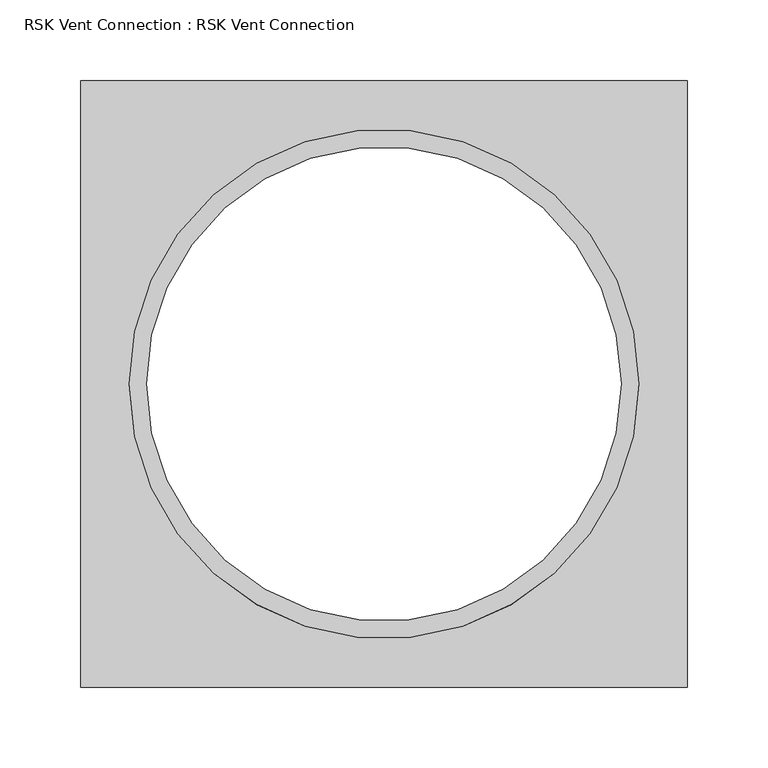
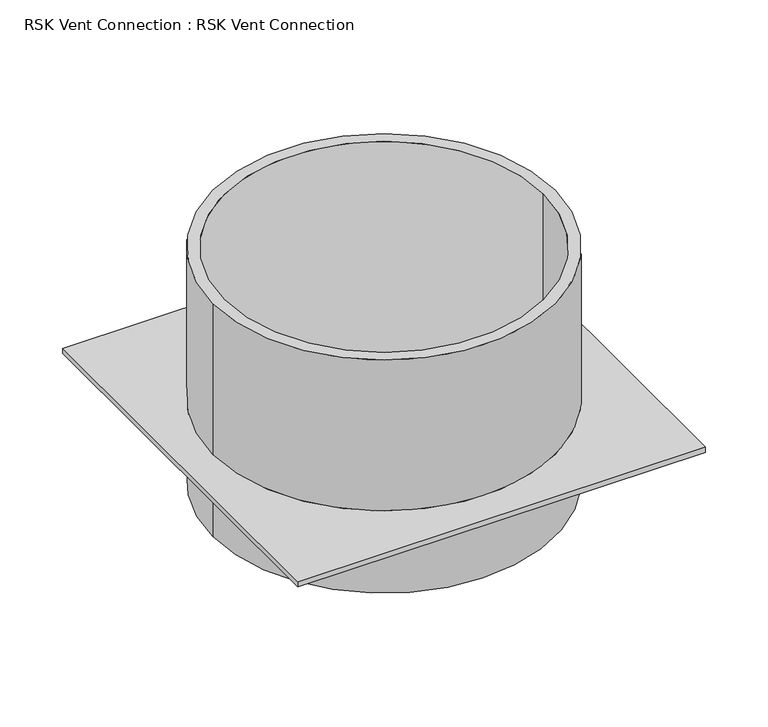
"""IFC4 building model written with IfcOpenShell, lengths in millimetres: proxy geometry, RSK Vent Connection : RSK Vent Connection."""

from ifc_helpers import new_model, si_unit, frame, origin, place, context, project, spatial, polyline, circle_curve, source, transform, mapped, element, save
from ifc_brep_helpers import plane_surface, cylinder_surface, revolved_surface, advanced_brep


def rsk_vent_connection_rsk_vent_connection_7fc5461f(model_context):
    return source(origin(), model_context, "Body", "AdvancedBrep", [
        advanced_brep(
        [(187.5, -187.5, 5.0), (187.5, 187.5, 5.0), (-187.5, 187.5, 5.0), (-187.5, -187.5, 5.0), (-157.5, 0.0, 5.0), (157.5, 0.0, 5.0), (187.5, -187.5, 0.0), (-187.5, -187.5, 0.0), (-187.5, 187.5, 0.0), (187.5, 187.5, 0.0), (157.5, 0.0, 0.0), (-157.5, 0.0, 0.0), (157.5, 0.0, 152.0), (-157.5, 0.0, 152.0), (146.7, 0.0, 152.0), (-146.7, 0.0, 152.0), (157.5, 0.0, -75.0), (-157.5, 0.0, -75.0), (146.7, 0.0, -75.0), (-146.7, 0.0, -75.0)],
        [
            (0, 1),
            (1, 2),
            (2, 3),
            (3, 0),
            (4, 5, circle_curve(frame((0.0, 0.0, 5.0), z_axis=(0.0, 0.0, -1.0), x_axis=(-1.0, 0.0, 0.0)), 157.5)),
            (5, 4, circle_curve(frame((0.0, 0.0, 5.0), z_axis=(0.0, 0.0, -1.0), x_axis=(-1.0, 0.0, 0.0)), 157.5)),
            (6, 7),
            (7, 8),
            (8, 9),
            (9, 6),
            (10, 11, circle_curve(frame((0.0, 0.0, 0.0), z_axis=(0.0, 0.0, 1.0), x_axis=(-1.0, 0.0, 0.0)), 157.5)),
            (11, 10, circle_curve(frame((0.0, 0.0, 0.0), z_axis=(0.0, 0.0, 1.0), x_axis=(-1.0, 0.0, 0.0)), 157.5)),
            (0, 6),
            (9, 1),
            (8, 2),
            (7, 3),
            (12, 13, circle_curve(frame((0.0, 0.0, 152.0), z_axis=(0.0, 0.0, 1.0), x_axis=(-1.0, 0.0, 0.0)), 157.5)),
            (13, 12, circle_curve(frame((0.0, 0.0, 152.0), z_axis=(0.0, 0.0, 1.0), x_axis=(-1.0, 0.0, 0.0)), 157.5)),
            (14, 15, circle_curve(frame((0.0, 0.0, 152.0), z_axis=(0.0, 0.0, -1.0), x_axis=(-1.0, 0.0, 0.0)), 146.7)),
            (15, 14, circle_curve(frame((0.0, 0.0, 152.0), z_axis=(0.0, 0.0, -1.0), x_axis=(-1.0, 0.0, 0.0)), 146.7)),
            (16, 17, circle_curve(frame((0.0, 0.0, -75.0), z_axis=(0.0, 0.0, -1.0), x_axis=(-1.0, 0.0, 0.0)), 157.5)),
            (17, 16, circle_curve(frame((0.0, 0.0, -75.0), z_axis=(0.0, 0.0, -1.0), x_axis=(-1.0, 0.0, 0.0)), 157.5)),
            (18, 19, circle_curve(frame((0.0, 0.0, -75.0), z_axis=(0.0, 0.0, 1.0), x_axis=(-1.0, 0.0, 0.0)), 146.7)),
            (19, 18, circle_curve(frame((0.0, 0.0, -75.0), z_axis=(0.0, 0.0, 1.0), x_axis=(-1.0, 0.0, 0.0)), 146.7)),
            (12, 5),
            (4, 13),
            (17, 11),
            (10, 16),
            (14, 18),
            (19, 15),
        ],
        [
            plane_surface(frame((187.5, -187.5, 5.0), z_axis=(0.0, 0.0, 1.0), x_axis=(0.0, 1.0, 0.0))),
            plane_surface(frame((187.5, -187.5, 0.0), z_axis=(0.0, 0.0, -1.0), x_axis=(0.0, -1.0, 0.0))),
            plane_surface(frame((187.5, -187.5, 5.0), z_axis=(1.0, 0.0, 0.0), x_axis=(0.0, 0.0, -1.0))),
            plane_surface(frame((187.5, 187.5, 5.0), z_axis=(0.0, 1.0, 0.0), x_axis=(0.0, 0.0, -1.0))),
            plane_surface(frame((-187.5, 187.5, 5.0), z_axis=(-1.0, 0.0, 0.0), x_axis=(0.0, 0.0, -1.0))),
            plane_surface(frame((-187.5, -187.5, 5.0), z_axis=(0.0, -1.0, 0.0), x_axis=(0.0, 0.0, -1.0))),
            plane_surface(frame((-157.5, 0.0, 152.0), z_axis=(0.0, 0.0, 1.0), x_axis=(0.0, -1.0, 0.0))),
            plane_surface(frame((-157.5, 0.0, -75.0), z_axis=(0.0, 0.0, -1.0), x_axis=(0.0, 1.0, 0.0))),
            cylinder_surface(frame((0.0, 0.0, -75.0), z_axis=(0.0, 0.0, 1.0), x_axis=(-1.0, 0.0, 0.0)), 157.5),
            revolved_surface(polyline([(-146.7, 0.0, -75.0), (-146.7, 0.0, 152.0)]), (0.0, 0.0, -75.0), (0.0, 0.0, -1.0)),
        ],
        [
            (0, [[1, 2, 3, 4], [5, 6]]),
            (1, [[7, 8, 9, 10], [11, 12]]),
            (2, [[-1, 13, -10, 14]]),
            (3, [[-2, -14, -9, 15]]),
            (4, [[-3, -15, -8, 16]]),
            (5, [[-4, -16, -7, -13]]),
            (6, [[17, 18], [19, 20]]),
            (7, [[21, 22], [23, 24]]),
            (8, [[-17, 25, -5, 26]]),
            (8, [[-22, 27, -11, 28]]),
            (8, [[-18, -26, -6, -25]]),
            (8, [[-21, -28, -12, -27]]),
            (9, [[-19, 29, -24, 30]]),
            (9, [[-20, -30, -23, -29]]),
        ],
    ),
    ])


if __name__ == "__main__":
    model = new_model("IFC4")
    model_context = context("Model", 3, world=origin())
    ifc_project = project(units=[si_unit("LENGTHUNIT", "METRE", prefix="MILLI")], contexts=[model_context])
    site = spatial("IfcSite", under=ifc_project)
    building = spatial("IfcBuilding", under=site)
    placement = place(None, origin())
    rsk_vent_connection_rsk_vent_connection_shape = rsk_vent_connection_rsk_vent_connection_7fc5461f(model_context)
    element("IfcBuildingElementProxy", 1, Name="RSK Vent Connection : RSK Vent Connection", ObjectType="RSK Vent Connection : RSK Vent Connection", at=placement, inside=building, context=model_context, shape_type="MappedRepresentation", body=[
        mapped(rsk_vent_connection_rsk_vent_connection_shape, transform((0.0, 0.0, 0.0), x_axis=(1.0, 0.0, 0.0), y_axis=(0.0, 1.0, 0.0), z_axis=(0.0, 0.0, 1.0))),
    ])
    save(model, "model.ifc")
